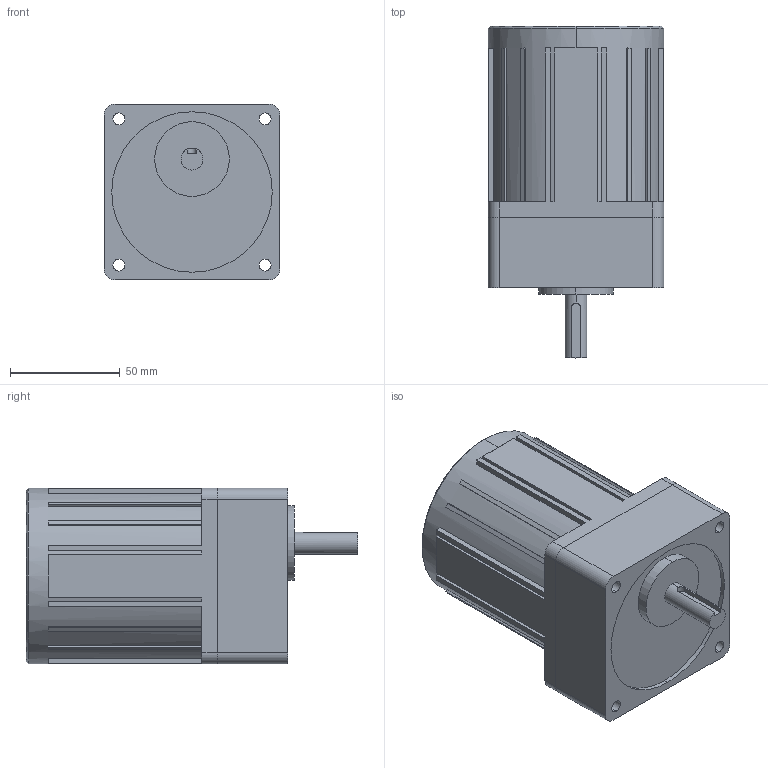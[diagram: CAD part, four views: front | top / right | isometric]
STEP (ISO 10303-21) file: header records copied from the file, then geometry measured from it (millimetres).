
FILE_DESCRIPTION (( 'STEP AP203' ), '1' );
FILE_NAME ('L8HK003B + L8I25PBL.STEP', '2018-09-20T05:31:36', ( '' ), ( '' ), 'SwSTEP 2.0', 'SolidWorks 2017', '' );
FILE_SCHEMA (( 'CONFIG_CONTROL_DESIGN' ));
Length unit declared in the file: millimetre
Products named in the file (1): L8HK003B + L8I25PBL
Bounding box: 80 x 151 x 80 mm (x, y, z)
Volume: 650408.7 mm3; surface area: 67177 mm2
Topology: 2 solids, 2 shells, 149 faces, 406 edges, 268 vertices
Faces by surface type: plane 106, cylinder 41, cone 2
Entity records: 4854 total; most frequent: CARTESIAN_POINT 854, DIRECTION 829, ORIENTED_EDGE 812, EDGE_CURVE 406, LINE 279, VECTOR 279, AXIS2_PLACEMENT_3D 275, VERTEX_POINT 268
